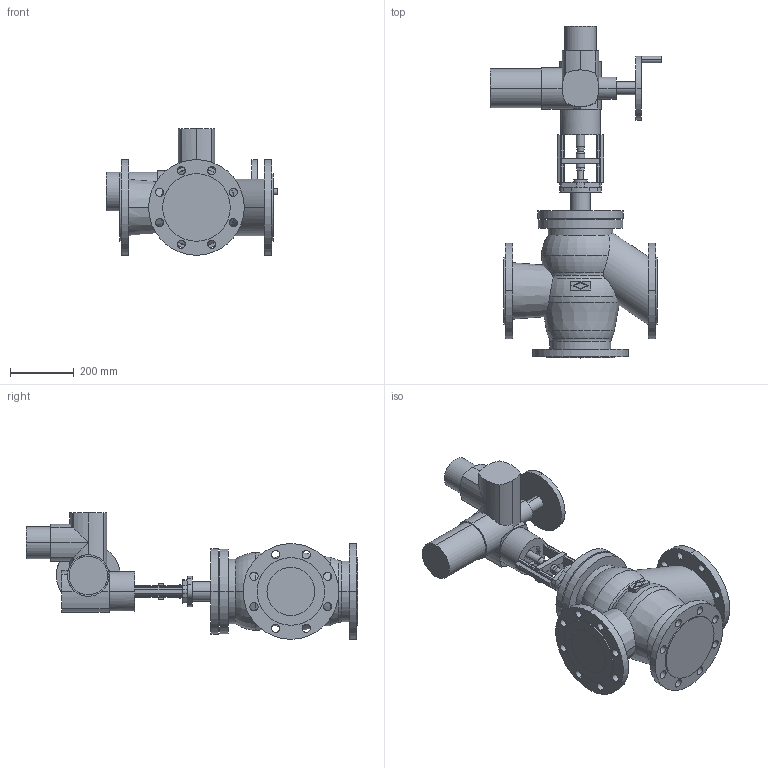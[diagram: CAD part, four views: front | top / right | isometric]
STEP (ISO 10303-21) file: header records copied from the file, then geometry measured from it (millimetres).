
FILE_DESCRIPTION(('OneSpaceDesigner STEP Export'),'2;1');
FILE_NAME('c000003180.stp','2007-01-24T11:03:24',(''),(''),'OneSpace Designer STEP processor for AP214 (Solid Model)','OneSpace Designer 14.00B 27-May-2006 (C) CoCreate Software GmbH','');
FILE_SCHEMA(('AUTOMOTIVE_DESIGN { 1 0 10303 214 1 1 1 1 }'));
Length unit declared in the file: millimetre
Products named in the file (2): 1; 2
Bounding box: 536 x 1040 x 397 mm (x, y, z)
Volume: 39564392.3 mm3; surface area: 1517877.7 mm2
Topology: 2 solids, 2 shells, 322 faces, 818 edges, 519 vertices
Faces by surface type: cylinder 164, plane 134, torus 16, cone 8
Entity records: 9295 total; most frequent: CARTESIAN_POINT 2073, ORIENTED_EDGE 1636, DIRECTION 1320, EDGE_CURVE 818, VERTEX_POINT 519, AXIS2_PLACEMENT_3D 462, EDGE_LOOP 401, VECTOR 396
